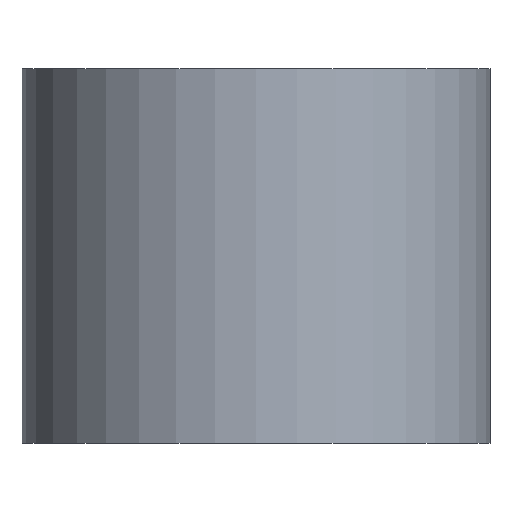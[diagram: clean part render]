
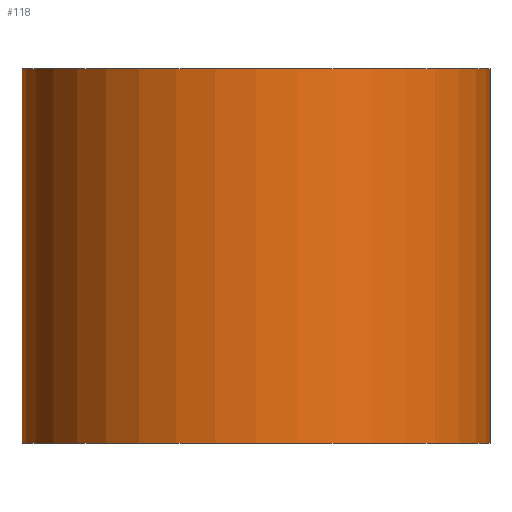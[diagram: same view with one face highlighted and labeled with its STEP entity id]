
A CAD part, front view. The second image highlights one B-rep face of the part: STEP entity #118.
In plain terms, the highlighted cylindrical face has radius 25 mm (diameter 50 mm), a partial arc.
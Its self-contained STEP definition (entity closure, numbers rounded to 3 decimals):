
#100=CYLINDRICAL_SURFACE('',#199,25.);
#104=FACE_OUTER_BOUND('',#132,.T.);
#107=LINE('',#257,#111);
#108=LINE('',#258,#112);
#111=VECTOR('',#228,1.);
#112=VECTOR('',#229,1.);
#118=ADVANCED_FACE('',(#104),#100,.T.);
#132=EDGE_LOOP('',(#153,#154,#155,#156));
#153=ORIENTED_EDGE('',*,*,#175,.F.);
#154=ORIENTED_EDGE('',*,*,#174,.T.);
#155=ORIENTED_EDGE('',*,*,#176,.T.);
#156=ORIENTED_EDGE('',*,*,#165,.F.);
#157=VERTEX_POINT('',#236);
#158=VERTEX_POINT('',#237);
#163=VERTEX_POINT('',#253);
#164=VERTEX_POINT('',#254);
#165=EDGE_CURVE('',#157,#158,#177,.T.);
#174=EDGE_CURVE('',#164,#163,#184,.T.);
#175=EDGE_CURVE('',#164,#157,#107,.T.);
#176=EDGE_CURVE('',#163,#158,#108,.T.);
#177=CIRCLE('',#186,25.);
#184=CIRCLE('',#196,25.);
#186=AXIS2_PLACEMENT_3D('',#235,#202,#203);
#196=AXIS2_PLACEMENT_3D('',#255,#224,#225);
#199=AXIS2_PLACEMENT_3D('',#260,#232,#233);
#202=DIRECTION('',(0.,0.,1.));
#203=DIRECTION('',(0.,1.,0.));
#224=DIRECTION('',(0.,0.,1.));
#225=DIRECTION('',(0.,1.,0.));
#228=DIRECTION('',(0.,0.,1.));
#229=DIRECTION('',(0.,0.,1.));
#232=DIRECTION('',(0.,0.,1.));
#233=DIRECTION('',(0.,-1.,0.));
#235=CARTESIAN_POINT('',(0.,0.,40.));
#236=CARTESIAN_POINT('',(-25.,0.,40.));
#237=CARTESIAN_POINT('',(25.,0.,40.));
#253=CARTESIAN_POINT('',(25.,0.,0.));
#254=CARTESIAN_POINT('',(-25.,0.,0.));
#255=CARTESIAN_POINT('',(0.,0.,0.));
#257=CARTESIAN_POINT('',(-25.,0.,40.));
#258=CARTESIAN_POINT('',(25.,0.,40.));
#260=CARTESIAN_POINT('',(0.,0.,0.));
